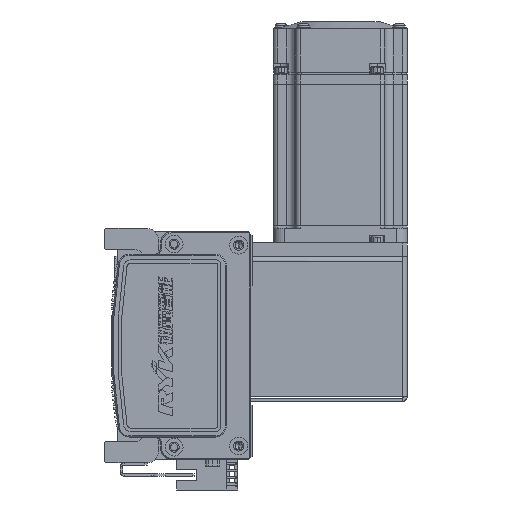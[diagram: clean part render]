
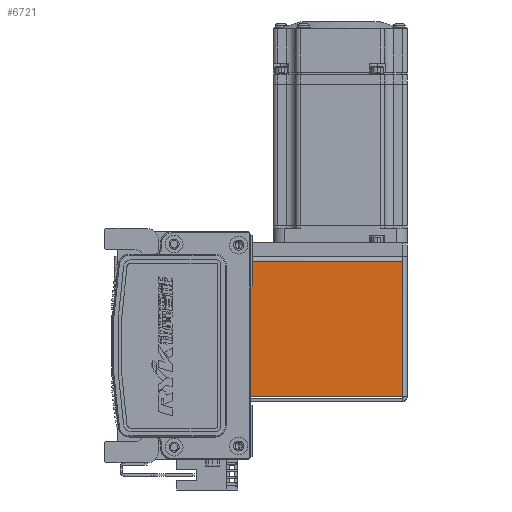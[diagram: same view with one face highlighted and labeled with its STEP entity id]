
A CAD part, left-side view. The second image highlights one B-rep face of the part: STEP entity #6721.
In plain terms, the highlighted planar face has unit normal (-1, 0, 0) as drawn and (0, 0, 1) by its records, which use the part's own axes.
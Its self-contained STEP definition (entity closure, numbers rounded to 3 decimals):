
#1416 = EDGE_CURVE ( 'NONE', #41735, #7838, #10324, .T. ) ;
#3027 = CARTESIAN_POINT ( 'NONE',  ( -30.293, 0., 35. ) ) ;
#5062 = VECTOR ( 'NONE', #12748, 1000. ) ;
#5279 = ORIENTED_EDGE ( 'NONE', *, *, #60114, .F. ) ;
#6721 = ADVANCED_FACE ( 'NONE', ( #29661 ), #36426, .F. ) ;
#6968 = DIRECTION ( 'NONE',  ( -1., 0., 0. ) ) ;
#7838 = VERTEX_POINT ( 'NONE', #29968 ) ;
#8373 = LINE ( 'NONE', #21688, #61846 ) ;
#8667 = VERTEX_POINT ( 'NONE', #18344 ) ;
#10324 = LINE ( 'NONE', #17180, #63816 ) ;
#12748 = DIRECTION ( 'NONE',  ( 0., 1., 0. ) ) ;
#14701 = LINE ( 'NONE', #3027, #5062 ) ;
#15906 = VECTOR ( 'NONE', #60871, 1000. ) ;
#17180 = CARTESIAN_POINT ( 'NONE',  ( -32.5, 0.737, 35. ) ) ;
#17500 = AXIS2_PLACEMENT_3D ( 'NONE', #31470, #51903, #36214 ) ;
#18344 = CARTESIAN_POINT ( 'NONE',  ( -30.293, 72.5, 35. ) ) ;
#21688 = CARTESIAN_POINT ( 'NONE',  ( 0., 72.5, 35. ) ) ;
#21949 = DIRECTION ( 'NONE',  ( -1., 0., 0. ) ) ;
#29661 = FACE_OUTER_BOUND ( 'NONE', #56522, .T. ) ;
#29968 = CARTESIAN_POINT ( 'NONE',  ( -30.293, 0.737, 35. ) ) ;
#31470 = CARTESIAN_POINT ( 'NONE',  ( 0., 0., 35. ) ) ;
#34557 = CARTESIAN_POINT ( 'NONE',  ( 30.263, 0.737, 35. ) ) ;
#34760 = VERTEX_POINT ( 'NONE', #49471 ) ;
#35079 = ORIENTED_EDGE ( 'NONE', *, *, #1416, .F. ) ;
#36214 = DIRECTION ( 'NONE',  ( -1., 0., 0. ) ) ;
#36426 = PLANE ( 'NONE',  #17500 ) ;
#36447 = ORIENTED_EDGE ( 'NONE', *, *, #55892, .T. ) ;
#41735 = VERTEX_POINT ( 'NONE', #34557 ) ;
#45665 = ORIENTED_EDGE ( 'NONE', *, *, #66364, .T. ) ;
#49471 = CARTESIAN_POINT ( 'NONE',  ( 30.263, 72.5, 35. ) ) ;
#50437 = CARTESIAN_POINT ( 'NONE',  ( 30.263, 0.737, 35. ) ) ;
#51903 = DIRECTION ( 'NONE',  ( 0., 0., -1. ) ) ;
#55892 = EDGE_CURVE ( 'NONE', #34760, #8667, #8373, .T. ) ;
#56444 = LINE ( 'NONE', #50437, #15906 ) ;
#56522 = EDGE_LOOP ( 'NONE', ( #45665, #36447, #5279, #35079 ) ) ;
#60114 = EDGE_CURVE ( 'NONE', #7838, #8667, #14701, .T. ) ;
#60871 = DIRECTION ( 'NONE',  ( 0., 1., 0. ) ) ;
#61846 = VECTOR ( 'NONE', #6968, 1000. ) ;
#63816 = VECTOR ( 'NONE', #21949, 1000. ) ;
#66364 = EDGE_CURVE ( 'NONE', #41735, #34760, #56444, .T. ) ;
